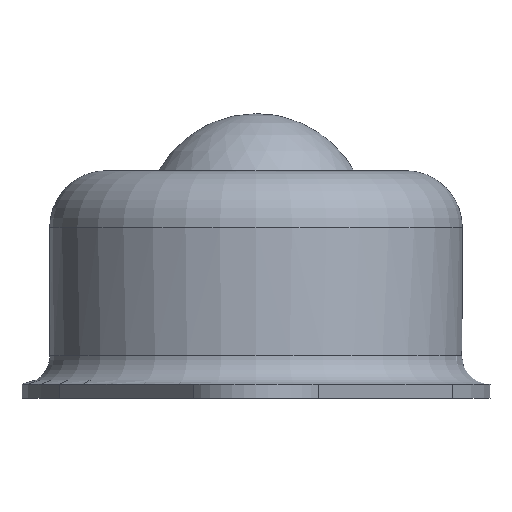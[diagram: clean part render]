
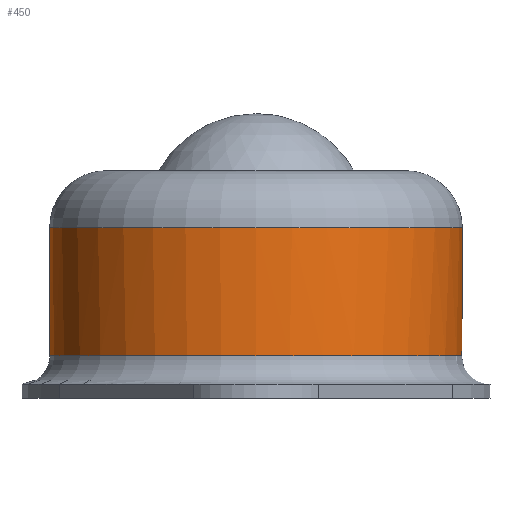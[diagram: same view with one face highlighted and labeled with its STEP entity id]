
A CAD part, front view. The second image highlights one B-rep face of the part: STEP entity #450.
In plain terms, the highlighted cylindrical face has radius 14.5 mm (diameter 29 mm), a full revolution.
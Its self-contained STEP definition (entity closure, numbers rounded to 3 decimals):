
#57=CYLINDRICAL_SURFACE('',#517,14.5);
#73=FACE_BOUND('',#161,.T.);
#113=FACE_OUTER_BOUND('',#160,.T.);
#160=EDGE_LOOP('',(#387));
#161=EDGE_LOOP('',(#388));
#208=CIRCLE('',#516,14.5);
#209=CIRCLE('',#518,14.5);
#247=VERTEX_POINT('',#786);
#248=VERTEX_POINT('',#789);
#298=EDGE_CURVE('',#247,#247,#208,.T.);
#299=EDGE_CURVE('',#248,#248,#209,.T.);
#387=ORIENTED_EDGE('',*,*,#299,.F.);
#388=ORIENTED_EDGE('',*,*,#298,.T.);
#450=ADVANCED_FACE('',(#113,#73),#57,.T.);
#516=AXIS2_PLACEMENT_3D('',#787,#646,#647);
#517=AXIS2_PLACEMENT_3D('',#788,#648,#649);
#518=AXIS2_PLACEMENT_3D('',#790,#650,#651);
#646=DIRECTION('center_axis',(0.,0.,1.));
#647=DIRECTION('ref_axis',(0.,-1.,0.));
#648=DIRECTION('center_axis',(0.,0.,1.));
#649=DIRECTION('ref_axis',(0.,-1.,0.));
#650=DIRECTION('center_axis',(0.,0.,1.));
#651=DIRECTION('ref_axis',(0.,-1.,0.));
#786=CARTESIAN_POINT('',(0.,-14.5,3.));
#787=CARTESIAN_POINT('Origin',(0.,0.,3.));
#788=CARTESIAN_POINT('Origin',(0.,0.,7.5));
#789=CARTESIAN_POINT('',(0.,-14.5,12.));
#790=CARTESIAN_POINT('Origin',(0.,0.,12.));
